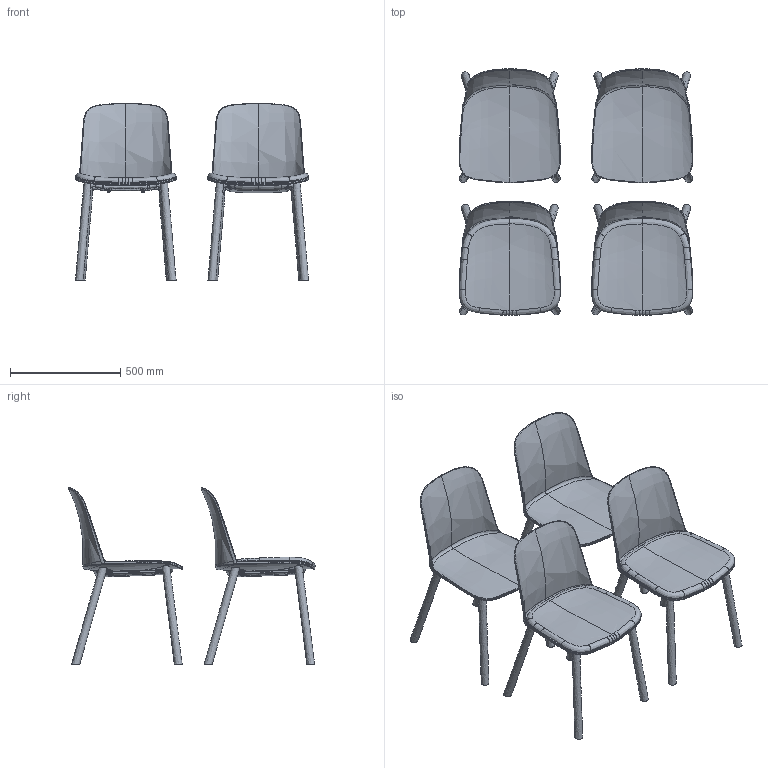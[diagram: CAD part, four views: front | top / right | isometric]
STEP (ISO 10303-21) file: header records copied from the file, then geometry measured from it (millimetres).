
FILE_DESCRIPTION(/* description */ (''),/* implementation_level */ '2;1');
FILE_NAME(/* name */ 'UNIX4G~1',/* time_stamp */ '2025-02-10T09:17:39+01:00',/* author */ (''),/* organization */ (''),/* preprocessor_version */ 'ST-DEVELOPER v16.5',/* originating_system */ '',/* authorisation */ '');
FILE_SCHEMA (('AUTOMOTIVE_DESIGN'));
Products named in the file (1): Document
Bounding box: 1058.94 x 1115.45 x 802.34 mm (x, y, z)
Volume: 25672739.7 mm3; surface area: 5361936.5 mm2
Topology: 67 solids, 69 shells, 2177 faces, 4828 edges, 2814 vertices
Faces by surface type: bspline 1845, plane 332
Entity records: 250364 total; most frequent: CARTESIAN_POINT 222645, ORIENTED_EDGE 9528, EDGE_CURVE 4784, VERTEX_POINT 2808, B_SPLINE_CURVE_WITH_KNOTS 2360, EDGE_LOOP 2264, ADVANCED_FACE 2176, FACE_OUTER_BOUND 2176
